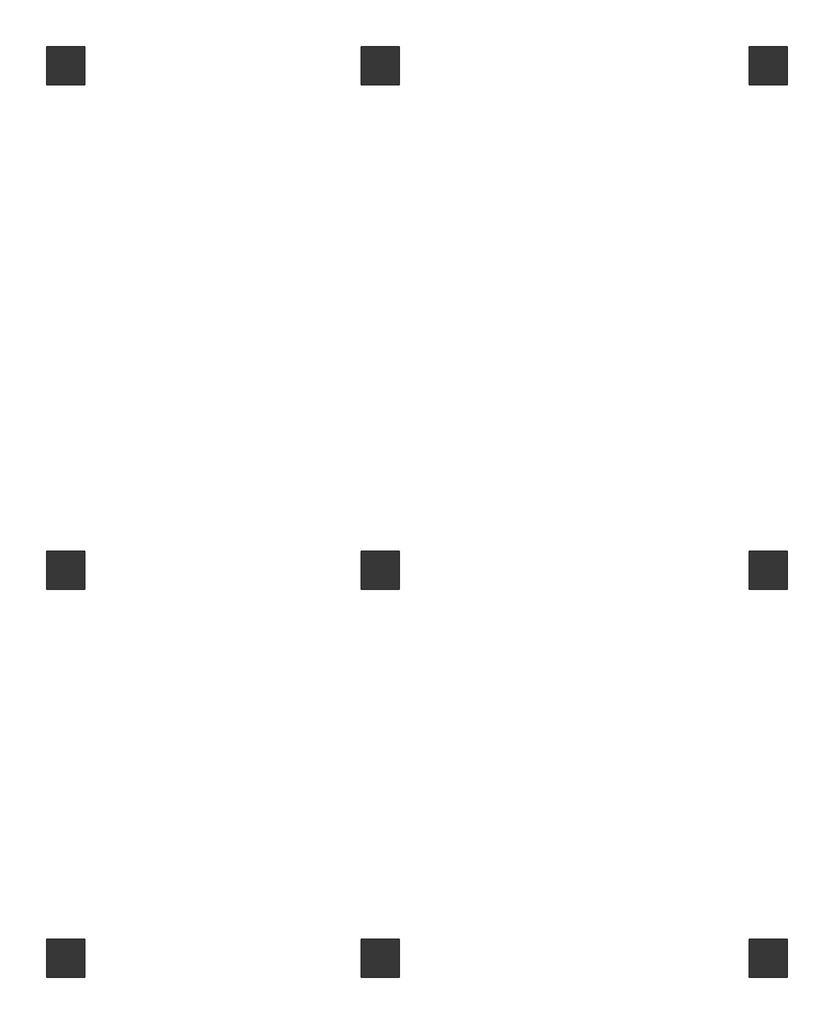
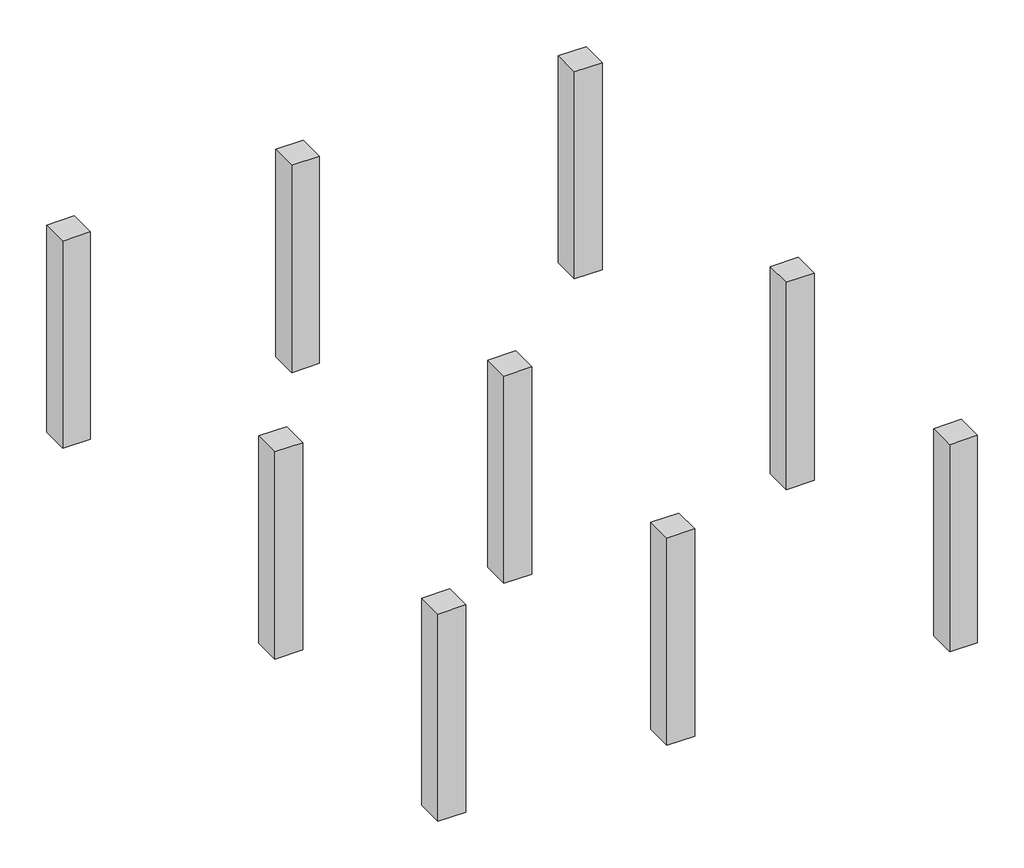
# One storey: 9 columns.
"""IFC4 building model written with IfcOpenShell, lengths in millimetres."""

import ifcopenshell
import ifcopenshell.guid

model = None  # the IFC model being written
_history = None  # IfcOwnerHistory: only IFC2X3 demands one
_inside = {}  # id of a spatial element -> (the spatial element, [elements in it])
_under = {}  # id of a project, library or spatial element -> (it, [spatial elements below it])
_declared = {}  # id of a project -> (the project, [libraries it declares])
_typed = {}  # id of a type object -> (the type object, [elements of that type])
_made_of = {}  # id of a material, layer set ... -> (it, [elements and type objects made of it])


def new_model(schema):
    """Start an empty IFC model of exactly this schema.

    Asked for "IFC4X3", IfcOpenShell would pick the latest addendum, in which some entities
    have other attributes; the version numbers below select the first issue.
    IFC2X3 requires an IfcOwnerHistory on every rooted entity: one is made here for all.
    """
    global model, _history
    if schema == "IFC4X3":
        model = ifcopenshell.file(schema_version=(4, 3, 0, 0))
    else:
        model = ifcopenshell.file(schema=schema)
    _inside.clear()
    _under.clear()
    _declared.clear()
    _typed.clear()
    _made_of.clear()
    _history = None
    if model.schema == "IFC2X3":
        org = make("IfcOrganization", Name="unknown")
        user = make(
            "IfcPersonAndOrganization",
            ThePerson=make("IfcPerson", FamilyName="unknown"),
            TheOrganization=org,
        )
        app = make(
            "IfcApplication",
            ApplicationDeveloper=org,
            Version="unknown",
            ApplicationFullName="unknown",
            ApplicationIdentifier="unknown",
        )
        _history = make(
            "IfcOwnerHistory",
            OwningUser=user,
            OwningApplication=app,
            ChangeAction="ADDED",
            CreationDate=0,
        )
    return model


def make(cls, **values):
    """One entity of the class cls with the attributes given. An attribute that is None is left unset."""
    return model.create_entity(
        cls, **{name: value for name, value in values.items() if value is not None}
    )


def rooted(cls, **values):
    """An entity with a GlobalId (a new one), such as an element, a storey or a relation."""
    return make(cls, GlobalId=ifcopenshell.guid.new(), OwnerHistory=_history, **values)


def si_unit(unit_type, name, prefix=None):
    """IfcSIUnit, for example si_unit("LENGTHUNIT", "METRE", prefix="MILLI")."""
    return make("IfcSIUnit", UnitType=unit_type, Prefix=prefix, Name=name)


def assignment(units):
    """IfcUnitAssignment: the units of a project."""
    return None if units is None else make("IfcUnitAssignment", Units=units)


def point(xyz):
    """IfcCartesianPoint."""
    return None if xyz is None else make("IfcCartesianPoint", Coordinates=xyz)


def direction(xyz):
    """IfcDirection."""
    return None if xyz is None else make("IfcDirection", DirectionRatios=xyz)


def frame(location, z_axis=None, x_axis=None):
    """IfcAxis2Placement3D, a coordinate frame: its origin and axes. An axis left out is left unset."""
    return make(
        "IfcAxis2Placement3D",
        Location=point(location),
        Axis=direction(z_axis),
        RefDirection=direction(x_axis),
    )


def origin():
    """The frame at (0, 0, 0) with its axes left unset."""
    return frame((0.0, 0.0, 0.0))


def place(relative_to, where):
    """IfcLocalPlacement: puts the frame where relative to a parent placement (None: the world)."""
    return make(
        "IfcLocalPlacement", PlacementRelTo=relative_to, RelativePlacement=where
    )


def context(
    kind, dimensions, precision=None, world=None, true_north=None, identifier=None
):
    """IfcGeometricRepresentationContext, for example the 3D "Model" context."""
    return make(
        "IfcGeometricRepresentationContext",
        ContextIdentifier=identifier,
        ContextType=kind,
        CoordinateSpaceDimension=dimensions,
        Precision=precision,
        WorldCoordinateSystem=world,
        TrueNorth=true_north,
    )


def project(units=None, contexts=None):
    """IfcProject with its units and contexts."""
    return rooted(
        "IfcProject",
        Name="project",
        RepresentationContexts=contexts,
        UnitsInContext=assignment(units),
    )


def spatial(cls, under=None, at=None, **own):
    """A site, building, storey or space (cls), placed at a placement, below another one or the project."""
    s = rooted(cls, ObjectPlacement=at, **own)
    if under is not None:
        _under.setdefault(under.id(), (under, []))[1].append(s)
    return s


def polyline(points):
    """IfcPolyline through the points."""
    return make("IfcPolyline", Points=[point(p) for p in points])


def outline(outer, holes=None, kind="AREA"):
    """IfcArbitraryClosedProfileDef: a profile drawn as a closed curve; with holes, ...WithVoids."""
    if holes is None:
        return make("IfcArbitraryClosedProfileDef", ProfileType=kind, OuterCurve=outer)
    return make(
        "IfcArbitraryProfileDefWithVoids",
        ProfileType=kind,
        OuterCurve=outer,
        InnerCurves=holes,
    )


def extrude(swept, where, along, depth):
    """IfcExtrudedAreaSolid: the profile swept, set in the frame where, extruded along a direction by depth."""
    return make(
        "IfcExtrudedAreaSolid",
        SweptArea=swept,
        Position=where,
        ExtrudedDirection=direction(along),
        Depth=depth,
    )


def shape(context_of_items, identifier, shape_type, items):
    """IfcShapeRepresentation: the items that make up one representation, for example the "Body"."""
    return make(
        "IfcShapeRepresentation",
        ContextOfItems=context_of_items,
        RepresentationIdentifier=identifier,
        RepresentationType=shape_type,
        Items=items,
    )


def source(mapping_origin, context_of_items, identifier, shape_type, items):
    """IfcRepresentationMap: a shape defined once, which mapped items show again and again."""
    return make(
        "IfcRepresentationMap",
        MappingOrigin=mapping_origin,
        MappedRepresentation=shape(context_of_items, identifier, shape_type, items),
    )


def transform(
    local_origin,
    x_axis=None,
    y_axis=None,
    z_axis=None,
    scale=None,
    scale2=None,
    scale3=None,
    uniform=True,
):
    """IfcCartesianTransformationOperator3D, or its non-uniform kind. x_axis, y_axis, z_axis: its Axis1, 2, 3."""
    if uniform:
        return make(
            "IfcCartesianTransformationOperator3D",
            Axis1=direction(x_axis),
            Axis2=direction(y_axis),
            LocalOrigin=point(local_origin),
            Scale=scale,
            Axis3=direction(z_axis),
        )
    return make(
        "IfcCartesianTransformationOperator3DnonUniform",
        Axis1=direction(x_axis),
        Axis2=direction(y_axis),
        LocalOrigin=point(local_origin),
        Scale=scale,
        Axis3=direction(z_axis),
        Scale2=scale2,
        Scale3=scale3,
    )


def mapped(mapping_source, mapping_target):
    """IfcMappedItem: shows the shape of a source again, moved by a transform."""
    return make(
        "IfcMappedItem", MappingSource=mapping_source, MappingTarget=mapping_target
    )


def made_of(thing, what):
    """Note that an element or type object is made of a material, layer set ...; save() writes the relation."""
    if what is not None:
        _made_of.setdefault(what.id(), (what, []))[1].append(thing)
    return thing


def element(
    cls,
    number,
    at=None,
    inside=None,
    cuts=None,
    type_object=None,
    material=None,
    context=None,
    identifier="Body",
    shape_type=None,
    held_by="IfcProductDefinitionShape",
    body=None,
    shapes=None,
    **own,
):
    """One element of the class cls, such as IfcWall. Its Tag is "e" and its number.

    at: its placement. inside: the storey or other place that contains it. cuts: it is an
    opening in that element (IfcRelVoidsElement). A single representation is given by context,
    identifier, shape_type and body (its items); several are given by shapes. held_by: the class
    of the entity that holds the representations. save() writes the other relations.
    """
    e = rooted(cls, Tag="e%d" % number, ObjectPlacement=at, **own)
    if body is not None:
        shapes = [shape(context, identifier, shape_type, body)]
    if shapes is not None:
        e.Representation = make(held_by, Representations=shapes)
    if inside is not None:
        _inside.setdefault(inside.id(), (inside, []))[1].append(e)
    if cuts is not None:
        rooted(
            "IfcRelVoidsElement", RelatingBuildingElement=cuts, RelatedOpeningElement=e
        )
    if type_object is not None:
        _typed.setdefault(type_object.id(), (type_object, []))[1].append(e)
    return made_of(e, material)


def aggregate(whole, parts):
    """IfcRelAggregates: a whole, such as a stair, and the parts it consists of."""
    return rooted("IfcRelAggregates", RelatingObject=whole, RelatedObjects=parts)


def save(model, path):
    """Write the relations noted so far, then the file.

    IfcRelAggregates (storeys below a building ...), IfcRelContainedInSpatialStructure (elements
    in a storey), IfcRelDefinesByType, IfcRelAssociatesMaterial and IfcRelDeclares: one each for
    every whole, place, type object, material and project.
    """
    for whole, parts in _under.values():
        aggregate(whole, parts)
    for where, things in _inside.values():
        rooted(
            "IfcRelContainedInSpatialStructure",
            RelatedElements=things,
            RelatingStructure=where,
        )
    for kind, things in _typed.values():
        rooted("IfcRelDefinesByType", RelatedObjects=things, RelatingType=kind)
    for what, things in _made_of.values():
        rooted("IfcRelAssociatesMaterial", RelatedObjects=things, RelatingMaterial=what)
    for by, libraries in _declared.values():
        rooted("IfcRelDeclares", RelatingContext=by, RelatedDefinitions=libraries)
    model.write(path)


def m_concrete_rectangular_column_600_x_600mm_0fd2129b(model_context):
    return source(origin(), model_context, "Body", "SweptSolid", [
        extrude(outline(polyline([(300.0, 300.0), (300.0, -300.0), (-300.0, -300.0), (-300.0, 300.0), (300.0, 300.0)])), frame((0.0, 0.0, -1677.0), z_axis=(0.0, 0.0, 1.0), x_axis=(1.0, 0.0, 0.0)), (0.0, 0.0, 1.0), 4725.0),
    ])


model = new_model("IFC4")

# Units and contexts
model_context = context("Model", 3, world=origin())
ifc_project = project(units=[si_unit("LENGTHUNIT", "METRE", prefix="MILLI")], contexts=[model_context])

# Site, building, storey
site = spatial("IfcSite", under=ifc_project)
building = spatial("IfcBuilding", under=site)
storey = spatial("IfcBuildingStorey", under=building, Name="T.O.F", Elevation=-1677.0)

# Columns
placement = place(None, origin())
m_concrete_rectangular_column_600_x_600mm_shape = m_concrete_rectangular_column_600_x_600mm_0fd2129b(model_context)
element("IfcColumn", 1, ObjectType="M_Concrete-Rectangular-Column : 600 x 600mm", at=placement, inside=storey, context=model_context, shape_type="MappedRepresentation", body=[
    mapped(m_concrete_rectangular_column_600_x_600mm_shape, transform((-21544.300634, -9758.8363965, 0.0), x_axis=(-1.0, 0.0, 0.0), y_axis=(0.0, -1.0, 0.0), z_axis=(0.0, 0.0, 1.0))),
])
element("IfcColumn", 2, ObjectType="M_Concrete-Rectangular-Column : 600 x 600mm", at=placement, inside=storey, context=model_context, shape_type="MappedRepresentation", body=[
    mapped(m_concrete_rectangular_column_600_x_600mm_shape, transform((-21544.300634, -3662.8363965, 0.0), x_axis=(-1.0, 0.0, 0.0), y_axis=(0.0, -1.0, 0.0), z_axis=(0.0, 0.0, 1.0))),
])
element("IfcColumn", 3, ObjectType="M_Concrete-Rectangular-Column : 600 x 600mm", at=placement, inside=storey, context=model_context, shape_type="MappedRepresentation", body=[
    mapped(m_concrete_rectangular_column_600_x_600mm_shape, transform((-21544.300634, 4262.1636035, 0.0), x_axis=(-1.0, 0.0, 0.0), y_axis=(0.0, -1.0, 0.0), z_axis=(0.0, 0.0, 1.0))),
])
element("IfcColumn", 4, ObjectType="M_Concrete-Rectangular-Column : 600 x 600mm", at=placement, inside=storey, context=model_context, shape_type="MappedRepresentation", body=[
    mapped(m_concrete_rectangular_column_600_x_600mm_shape, transform((-16604.9035319, -9758.8363965, 0.0), x_axis=(-1.0, 0.0, 0.0), y_axis=(0.0, -1.0, 0.0), z_axis=(0.0, 0.0, 1.0))),
])
element("IfcColumn", 5, ObjectType="M_Concrete-Rectangular-Column : 600 x 600mm", at=placement, inside=storey, context=model_context, shape_type="MappedRepresentation", body=[
    mapped(m_concrete_rectangular_column_600_x_600mm_shape, transform((-16604.9035319, -3662.8363965, 0.0), x_axis=(-1.0, 0.0, 0.0), y_axis=(0.0, -1.0, 0.0), z_axis=(0.0, 0.0, 1.0))),
])
element("IfcColumn", 6, ObjectType="M_Concrete-Rectangular-Column : 600 x 600mm", at=placement, inside=storey, context=model_context, shape_type="MappedRepresentation", body=[
    mapped(m_concrete_rectangular_column_600_x_600mm_shape, transform((-16604.9035319, 4262.1636035, 0.0), x_axis=(-1.0, 0.0, 0.0), y_axis=(0.0, -1.0, 0.0), z_axis=(0.0, 0.0, 1.0))),
])
element("IfcColumn", 7, ObjectType="M_Concrete-Rectangular-Column : 600 x 600mm", at=placement, inside=storey, context=model_context, shape_type="MappedRepresentation", body=[
    mapped(m_concrete_rectangular_column_600_x_600mm_shape, transform((-10508.9035319, -9758.8363965, 0.0), x_axis=(-1.0, 0.0, 0.0), y_axis=(0.0, -1.0, 0.0), z_axis=(0.0, 0.0, 1.0))),
])
element("IfcColumn", 8, ObjectType="M_Concrete-Rectangular-Column : 600 x 600mm", at=placement, inside=storey, context=model_context, shape_type="MappedRepresentation", body=[
    mapped(m_concrete_rectangular_column_600_x_600mm_shape, transform((-10508.9035319, -3662.8363965, 0.0), x_axis=(-1.0, 0.0, 0.0), y_axis=(0.0, -1.0, 0.0), z_axis=(0.0, 0.0, 1.0))),
])
element("IfcColumn", 9, ObjectType="M_Concrete-Rectangular-Column : 600 x 600mm", at=placement, inside=storey, context=model_context, shape_type="MappedRepresentation", body=[
    mapped(m_concrete_rectangular_column_600_x_600mm_shape, transform((-10508.9035319, 4262.1636035, 0.0), x_axis=(-1.0, 0.0, 0.0), y_axis=(0.0, -1.0, 0.0), z_axis=(0.0, 0.0, 1.0))),
])

save(model, "model.ifc")
